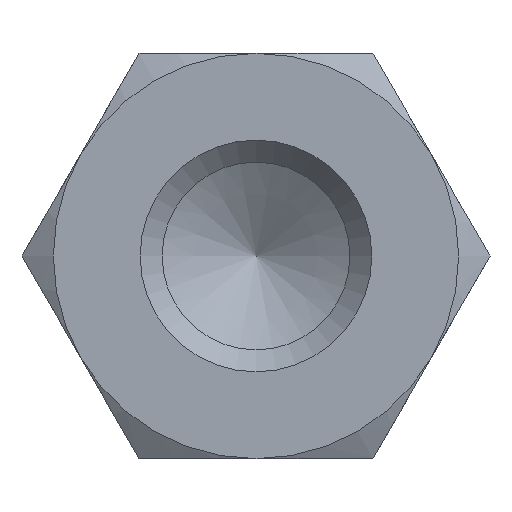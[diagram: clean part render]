
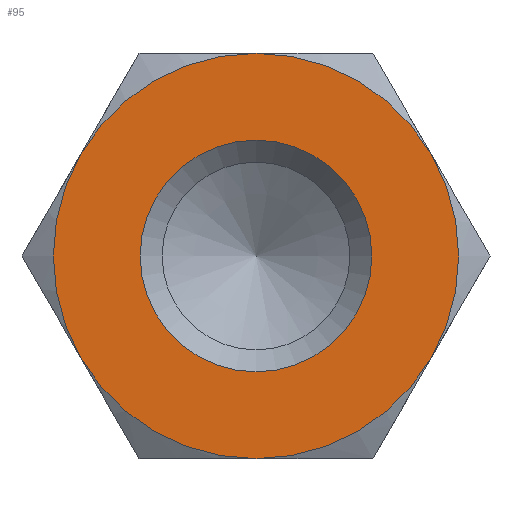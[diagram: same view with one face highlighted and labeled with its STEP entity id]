
A CAD part, left-side view. The second image highlights one B-rep face of the part: STEP entity #95.
In plain terms, the highlighted planar face has unit normal (-1, 0, 0).
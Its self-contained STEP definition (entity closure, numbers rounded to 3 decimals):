
#95 = ADVANCED_FACE( '', ( #147, #148 ), #149, .F. );
#147 = FACE_OUTER_BOUND( '', #206, .T. );
#148 = FACE_BOUND( '', #207, .T. );
#149 = PLANE( '', #208 );
#206 = EDGE_LOOP( '', ( #356, #357, #358, #359, #360, #361 ) );
#207 = EDGE_LOOP( '', ( #362 ) );
#208 = AXIS2_PLACEMENT_3D( '', #363, #364, #365 );
#356 = ORIENTED_EDGE( '', *, *, #440, .F. );
#357 = ORIENTED_EDGE( '', *, *, #425, .F. );
#358 = ORIENTED_EDGE( '', *, *, #441, .F. );
#359 = ORIENTED_EDGE( '', *, *, #437, .F. );
#360 = ORIENTED_EDGE( '', *, *, #442, .F. );
#361 = ORIENTED_EDGE( '', *, *, #443, .F. );
#362 = ORIENTED_EDGE( '', *, *, #439, .T. );
#363 = CARTESIAN_POINT( '', ( -12., 0., 0. ) );
#364 = DIRECTION( '', ( 1., 0., 0. ) );
#365 = DIRECTION( '', ( 0., 0., -1. ) );
#425 = EDGE_CURVE( '', #495, #493, #497, .T. );
#437 = EDGE_CURVE( '', #447, #506, #513, .T. );
#439 = EDGE_CURVE( '', #516, #516, #517, .T. );
#440 = EDGE_CURVE( '', #493, #486, #518, .T. );
#441 = EDGE_CURVE( '', #506, #495, #519, .T. );
#442 = EDGE_CURVE( '', #481, #447, #520, .T. );
#443 = EDGE_CURVE( '', #486, #481, #521, .T. );
#447 = VERTEX_POINT( '', #525 );
#481 = VERTEX_POINT( '', #595 );
#486 = VERTEX_POINT( '', #611 );
#493 = VERTEX_POINT( '', #632 );
#495 = VERTEX_POINT( '', #637 );
#497 = CIRCLE( '', #644, 3.5 );
#506 = VERTEX_POINT( '', #670 );
#513 = CIRCLE( '', #701, 3.5 );
#516 = VERTEX_POINT( '', #704 );
#517 = CIRCLE( '', #705, 2. );
#518 = CIRCLE( '', #706, 3.5 );
#519 = CIRCLE( '', #707, 3.5 );
#520 = CIRCLE( '', #708, 3.5 );
#521 = CIRCLE( '', #709, 3.5 );
#525 = CARTESIAN_POINT( '', ( -12., -3.031, 1.75 ) );
#595 = CARTESIAN_POINT( '', ( -12., 0., 3.5 ) );
#611 = CARTESIAN_POINT( '', ( -12., 3.031, 1.75 ) );
#632 = CARTESIAN_POINT( '', ( -12., 3.031, -1.75 ) );
#637 = CARTESIAN_POINT( '', ( -12., 0., -3.5 ) );
#644 = AXIS2_PLACEMENT_3D( '', #744, #745, #746 );
#670 = CARTESIAN_POINT( '', ( -12., -3.031, -1.75 ) );
#701 = AXIS2_PLACEMENT_3D( '', #749, #750, #751 );
#704 = CARTESIAN_POINT( '', ( -12., 2., 0. ) );
#705 = AXIS2_PLACEMENT_3D( '', #755, #756, #757 );
#706 = AXIS2_PLACEMENT_3D( '', #758, #759, #760 );
#707 = AXIS2_PLACEMENT_3D( '', #761, #762, #763 );
#708 = AXIS2_PLACEMENT_3D( '', #764, #765, #766 );
#709 = AXIS2_PLACEMENT_3D( '', #767, #768, #769 );
#744 = CARTESIAN_POINT( '', ( -12., 0., 0. ) );
#745 = DIRECTION( '', ( 1., 0., 0. ) );
#746 = DIRECTION( '', ( 0., 0., -1. ) );
#749 = CARTESIAN_POINT( '', ( -12., 0., 0. ) );
#750 = DIRECTION( '', ( 1., 0., 0. ) );
#751 = DIRECTION( '', ( 0., 0., -1. ) );
#755 = CARTESIAN_POINT( '', ( -12., 0., 0. ) );
#756 = DIRECTION( '', ( 1., 0., 0. ) );
#757 = DIRECTION( '', ( 0., 1., 0. ) );
#758 = CARTESIAN_POINT( '', ( -12., 0., 0. ) );
#759 = DIRECTION( '', ( 1., 0., 0. ) );
#760 = DIRECTION( '', ( 0., 0., -1. ) );
#761 = CARTESIAN_POINT( '', ( -12., 0., 0. ) );
#762 = DIRECTION( '', ( 1., 0., 0. ) );
#763 = DIRECTION( '', ( 0., 0., -1. ) );
#764 = CARTESIAN_POINT( '', ( -12., 0., 0. ) );
#765 = DIRECTION( '', ( 1., 0., 0. ) );
#766 = DIRECTION( '', ( 0., 0., -1. ) );
#767 = CARTESIAN_POINT( '', ( -12., 0., 0. ) );
#768 = DIRECTION( '', ( 1., 0., 0. ) );
#769 = DIRECTION( '', ( 0., 0., -1. ) );
